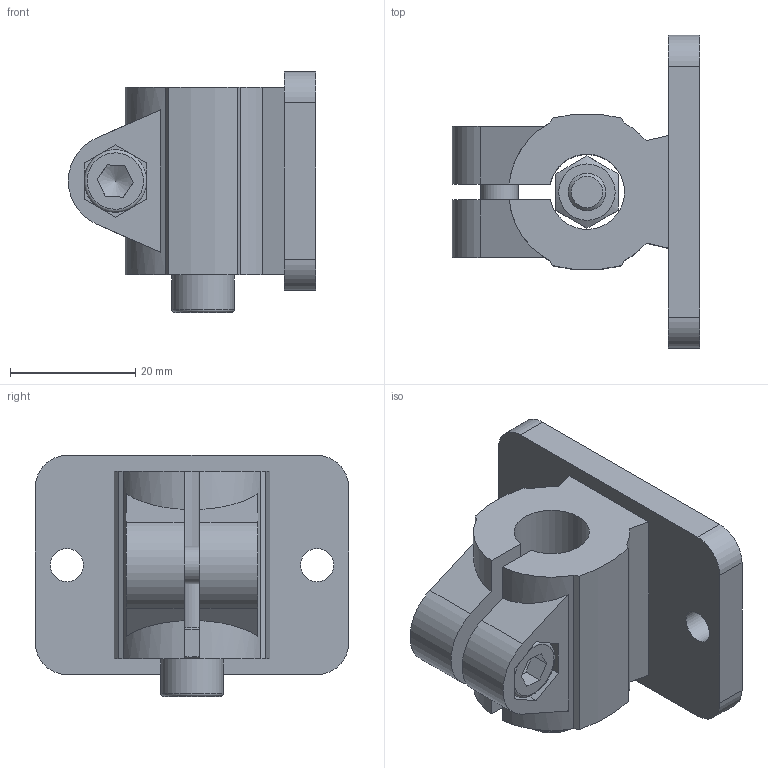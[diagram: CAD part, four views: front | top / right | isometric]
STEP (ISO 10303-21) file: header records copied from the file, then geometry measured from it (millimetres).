
FILE_DESCRIPTION( ( 'STEP AP214' ), '1' );
FILE_NAME( 'N:/Engineering/CAD_Solid/LVDT/Zubehör/Flanschklemmstück_D12.stp', '2011-10-12T11:53:03', ( ' ' ), ( ' ' ), 'XStep 1.0', ' ', ' ' );
FILE_SCHEMA( ( 'CONFIG_CONTROL_DESIGN) ( )' ) );
Length unit declared in the file: metre
Products named in the file (4): Assem1; Flanschklemmstück_D12; DIN912_M6x14; Mutter_DIN934_M6
Bounding box: 39.5 x 50 x 38.5 mm (x, y, z)
Volume: 42844.3 mm3; surface area: 21301.2 mm2
Topology: 6 solids, 6 shells, 174 faces, 450 edges, 298 vertices
Faces by surface type: plane 114, cylinder 46, cone 12, torus 2
Full cylindrical faces by diameter (mm): 4.917 x2, 5.3 x4, 6 x2, 6.4 x4, 10 x2
Entity records: 2883 total; most frequent: CARTESIAN_POINT 628, DIRECTION 426, ORIENTED_EDGE 412, EDGE_CURVE 206, AXIS2_PLACEMENT_3D 147, VERTEX_POINT 145, LINE 132, VECTOR 132
